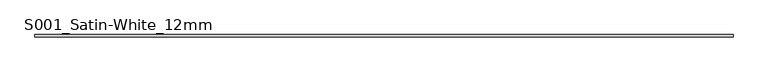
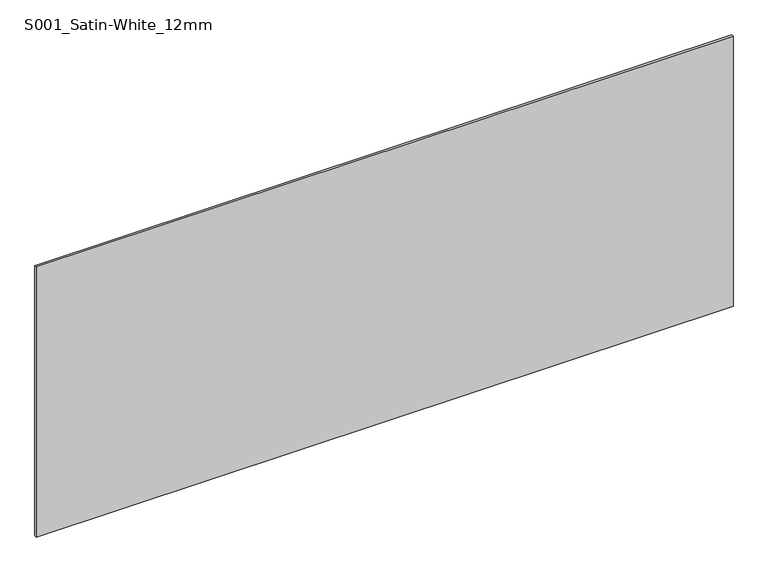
"""IFC4 building model written with IfcOpenShell, lengths in millimetres: plate geometry, Curtain-Panels_Outdoor-Material_HI-MACS_Solids : S001_Satin-White_12mm."""

from ifc_helpers import new_model, si_unit, origin, origin_with_axes, place, context, project, spatial, polyline, outline, extrude, source, transform, mapped, element, save


def s001_satin_white_12mm_670b1509(model_context):
    return source(origin(), model_context, "Body", "SweptSolid", [
        extrude(outline(polyline([(1840.0, 6.0), (1840.0, -6.0), (-1840.0, -6.0), (-1840.0, 6.0), (1840.0, 6.0)])), origin_with_axes(), (0.0, 0.0, 1.0), 1507.8728994),
    ])


if __name__ == "__main__":
    model = new_model("IFC4")
    model_context = context("Model", 3, world=origin())
    ifc_project = project(units=[si_unit("LENGTHUNIT", "METRE", prefix="MILLI")], contexts=[model_context])
    site = spatial("IfcSite", under=ifc_project)
    building = spatial("IfcBuilding", under=site)
    placement = place(None, origin())
    s001_satin_white_12mm_shape = s001_satin_white_12mm_670b1509(model_context)
    element("IfcPlate", 1, ObjectType="Curtain-Panels_Outdoor-Material_HI-MACS_Solids : S001_Satin-White_12mm", at=placement, inside=building, context=model_context, shape_type="MappedRepresentation", body=[
        mapped(s001_satin_white_12mm_shape, transform((0.0, 0.0, 0.0), x_axis=(1.0, 0.0, 0.0), y_axis=(0.0, 1.0, 0.0), z_axis=(0.0, 0.0, 1.0))),
    ])
    save(model, "model.ifc")
